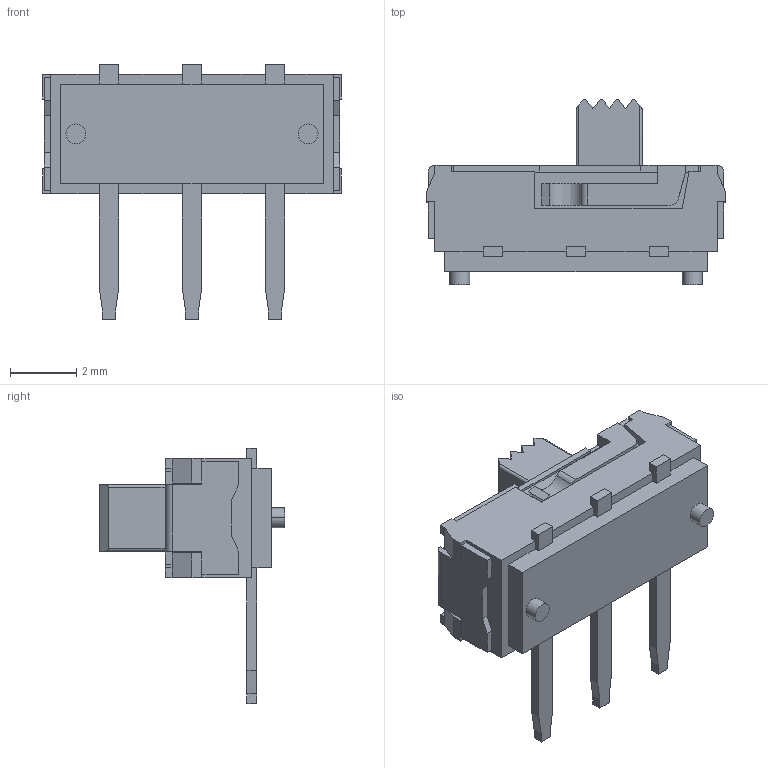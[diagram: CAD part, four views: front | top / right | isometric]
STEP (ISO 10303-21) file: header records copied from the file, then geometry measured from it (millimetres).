
FILE_DESCRIPTION((''),'2;1');
FILE_NAME('SKY-12D01-G2-OA_ASM','2015-12-15T',('Administrator'),(''),'PRO/ENGINEER BY PARAMETRIC TECHNOLOGY CORPORATION, 2010100','PRO/ENGINEER BY PARAMETRIC TECHNOLOGY CORPORATION, 2010100','');
FILE_SCHEMA(('CONFIG_CONTROL_DESIGN'));
Length unit declared in the file: millimetre
Products named in the file (5): 11-41202; 18-51201; 11-4222G; 563; SKY-12D01-G2-OA_ASM
Assembly tree (4 placements, depth 2):
  SKY-12D01-G2-OA_ASM
    11-41202
    18-51201
    11-4222G
    563
Bounding box: 9 x 5.6 x 7.7 mm (x, y, z)
Volume: 78.5 mm3; surface area: 492.1 mm2
Topology: 9 solids, 12 shells, 289 faces, 944 edges, 664 vertices
Faces by surface type: plane 266, cylinder 23
Entity records: 10339 total; most frequent: CARTESIAN_POINT 1928, ORIENTED_EDGE 1716, DIRECTION 1590, EDGE_CURVE 944, VECTOR 898, LINE 898, VERTEX_POINT 664, AXIS2_PLACEMENT_3D 346
